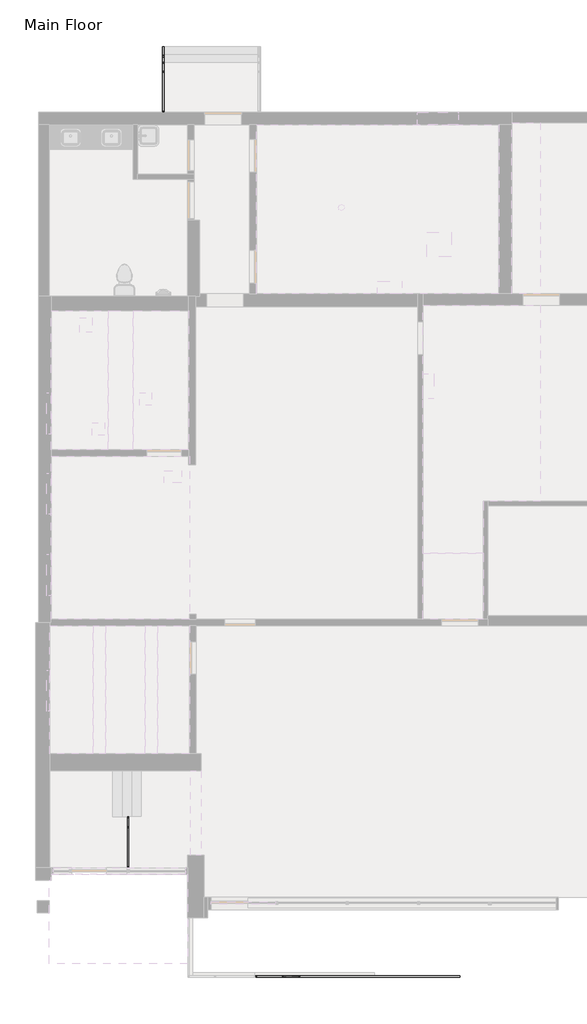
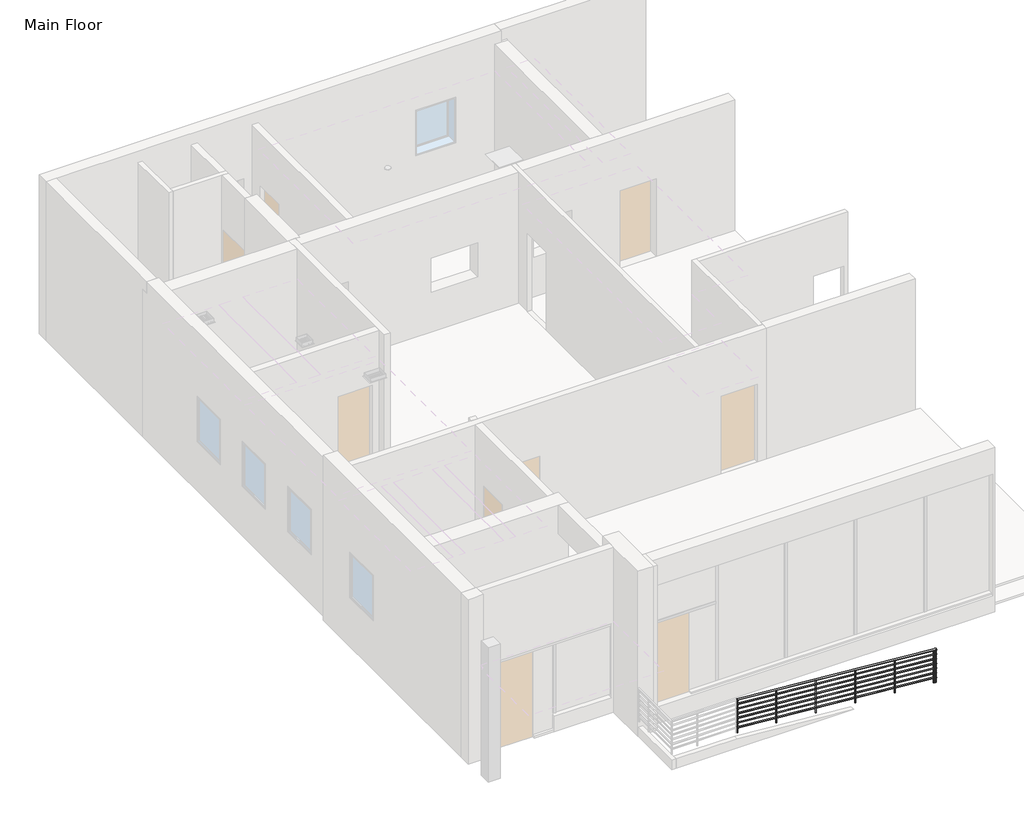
# One storey, part 3 of 4: 3 railings.
"""IFC4 building model written with IfcOpenShell, lengths in millimetres."""

from ifc_helpers import new_model, si_unit, point, frame, frame_2d, origin, place, context, project, spatial, circle_curve, ellipse_curve, trimmed, segment, composite_curve, outline, extrude, element, save
from ifc_brep_helpers import plane_surface, cylinder_surface, advanced_brep

model = new_model("IFC4")

# Units and contexts
model_context = context("Model", 3, world=origin())
ifc_project = project(units=[si_unit("LENGTHUNIT", "METRE", prefix="MILLI")], contexts=[model_context])

# Site, building, storey
site = spatial("IfcSite", under=ifc_project)
building = spatial("IfcBuilding", under=site)
storey = spatial("IfcBuildingStorey", under=building, Name="Main Floor", Elevation=0.0)

# Railings
placement = place(None, origin())
element("IfcRailing", 1, ObjectType="900mm Pipe", at=placement, inside=storey, context=model_context, shape_type="SweptSolid", body=[
    extrude(outline(composite_curve([segment(trimmed(circle_curve(frame_2d((1337.2, -3466.2370003)), 20.0), [point((1337.2, -3446.2370003))], [point((1337.2, -3486.2370003))], False, "CARTESIAN"), True, "CONTINUOUS"), segment(trimmed(circle_curve(frame_2d((1337.2, -3466.2370003)), 20.0), [point((1337.2, -3486.2370003))], [point((1337.2, -3446.2370003))], False, "CARTESIAN"), True, "CONTINUOUS")], self_intersect=False)), frame((0.0, -8476.0328667, 0.0), z_axis=(0.0, 1.0, 0.0), x_axis=(0.0, 0.0, 1.0)), (0.0, 0.0, 1.0), 1264.92),
    extrude(outline(composite_curve([segment(trimmed(circle_curve(frame_2d((1217.2, -3466.2370003)), 15.0), [point((1217.2, -3481.2370003))], [point((1217.2, -3451.2370003))], False, "CARTESIAN"), True, "CONTINUOUS"), segment(trimmed(circle_curve(frame_2d((1217.2, -3466.2370003)), 15.0), [point((1217.2, -3451.2370003))], [point((1217.2, -3481.2370003))], False, "CARTESIAN"), True, "CONTINUOUS")], self_intersect=False)), frame((0.0, -8476.0328667, 0.0), z_axis=(0.0, 1.0, 0.0), x_axis=(0.0, 0.0, 1.0)), (0.0, 0.0, 1.0), 1264.92),
    extrude(outline(composite_curve([segment(trimmed(circle_curve(frame_2d((1092.2, -3466.2370003)), 15.0), [point((1092.2, -3481.2370003))], [point((1092.2, -3451.2370003))], False, "CARTESIAN"), True, "CONTINUOUS"), segment(trimmed(circle_curve(frame_2d((1092.2, -3466.2370003)), 15.0), [point((1092.2, -3451.2370003))], [point((1092.2, -3481.2370003))], False, "CARTESIAN"), True, "CONTINUOUS")], self_intersect=False)), frame((0.0, -8476.0328667, 0.0), z_axis=(0.0, 1.0, 0.0), x_axis=(0.0, 0.0, 1.0)), (0.0, 0.0, 1.0), 1264.92),
    extrude(outline(composite_curve([segment(trimmed(circle_curve(frame_2d((967.2, -3466.2370003)), 15.0), [point((967.2, -3481.2370003))], [point((967.2, -3451.2370003))], False, "CARTESIAN"), True, "CONTINUOUS"), segment(trimmed(circle_curve(frame_2d((967.2, -3466.2370003)), 15.0), [point((967.2, -3451.2370003))], [point((967.2, -3481.2370003))], False, "CARTESIAN"), True, "CONTINUOUS")], self_intersect=False)), frame((0.0, -8476.0328667, 0.0), z_axis=(0.0, 1.0, 0.0), x_axis=(0.0, 0.0, 1.0)), (0.0, 0.0, 1.0), 1264.92),
    extrude(outline(composite_curve([segment(trimmed(circle_curve(frame_2d((842.2, -3466.2370003)), 15.0), [point((842.2, -3481.2370003))], [point((842.2, -3451.2370003))], False, "CARTESIAN"), True, "CONTINUOUS"), segment(trimmed(circle_curve(frame_2d((842.2, -3466.2370003)), 15.0), [point((842.2, -3451.2370003))], [point((842.2, -3481.2370003))], False, "CARTESIAN"), True, "CONTINUOUS")], self_intersect=False)), frame((0.0, -8476.0328667, 0.0), z_axis=(0.0, 1.0, 0.0), x_axis=(0.0, 0.0, 1.0)), (0.0, 0.0, 1.0), 1264.92),
    extrude(outline(composite_curve([segment(trimmed(circle_curve(frame_2d((717.2, -3466.2370003)), 15.0), [point((717.2, -3481.2370003))], [point((717.2, -3451.2370003))], False, "CARTESIAN"), True, "CONTINUOUS"), segment(trimmed(circle_curve(frame_2d((717.2, -3466.2370003)), 15.0), [point((717.2, -3451.2370003))], [point((717.2, -3481.2370003))], False, "CARTESIAN"), True, "CONTINUOUS")], self_intersect=False)), frame((0.0, -8476.0328667, 0.0), z_axis=(0.0, 1.0, 0.0), x_axis=(0.0, 0.0, 1.0)), (0.0, 0.0, 1.0), 1264.92),
    extrude(outline(composite_curve([segment(trimmed(circle_curve(frame_2d((592.2, -3466.2370003)), 15.0), [point((592.2, -3481.2370003))], [point((592.2, -3451.2370003))], False, "CARTESIAN"), True, "CONTINUOUS"), segment(trimmed(circle_curve(frame_2d((592.2, -3466.2370003)), 15.0), [point((592.2, -3451.2370003))], [point((592.2, -3481.2370003))], False, "CARTESIAN"), True, "CONTINUOUS")], self_intersect=False)), frame((0.0, -8476.0328667, 0.0), z_axis=(0.0, 1.0, 0.0), x_axis=(0.0, 0.0, 1.0)), (0.0, 0.0, 1.0), 1264.92),
    extrude(outline(composite_curve([segment(trimmed(circle_curve(frame_2d((-3466.2370003, -7476.0328667)), 12.5), [point((-3478.7370003, -7476.0328667))], [point((-3453.7370003, -7476.0328667))], False, "CARTESIAN"), True, "CONTINUOUS"), segment(trimmed(circle_curve(frame_2d((-3466.2370003, -7476.0328667)), 12.5), [point((-3453.7370003, -7476.0328667))], [point((-3478.7370003, -7476.0328667))], False, "CARTESIAN"), True, "CONTINUOUS")], self_intersect=False)), frame((0.0, 0.0, 457.2), z_axis=(0.0, 0.0, 1.0), x_axis=(1.0, 0.0, 0.0)), (0.0, 0.0, 1.0), 860.0),
    extrude(outline(composite_curve([segment(trimmed(circle_curve(frame_2d((-3466.2370003, -7223.6128667)), 12.5), [point((-3478.7370003, -7223.6128667))], [point((-3453.7370003, -7223.6128667))], False, "CARTESIAN"), True, "CONTINUOUS"), segment(trimmed(circle_curve(frame_2d((-3466.2370003, -7223.6128667)), 12.5), [point((-3453.7370003, -7223.6128667))], [point((-3478.7370003, -7223.6128667))], False, "CARTESIAN"), True, "CONTINUOUS")], self_intersect=False)), frame((0.0, 0.0, 457.2), z_axis=(0.0, 0.0, 1.0), x_axis=(1.0, 0.0, 0.0)), (0.0, 0.0, 1.0), 860.0),
    extrude(outline(composite_curve([segment(trimmed(circle_curve(frame_2d((-3466.2370003, -8463.5328667)), 12.5), [point((-3478.7370003, -8463.5328667))], [point((-3453.7370003, -8463.5328667))], False, "CARTESIAN"), True, "CONTINUOUS"), segment(trimmed(circle_curve(frame_2d((-3466.2370003, -8463.5328667)), 12.5), [point((-3453.7370003, -8463.5328667))], [point((-3478.7370003, -8463.5328667))], False, "CARTESIAN"), True, "CONTINUOUS")], self_intersect=False)), frame((0.0, 0.0, 457.2), z_axis=(0.0, 0.0, 1.0), x_axis=(1.0, 0.0, 0.0)), (0.0, 0.0, 1.0), 860.0),
])
element("IfcRailing", 2, ObjectType="900mm Pipe", at=placement, inside=storey, context=model_context, shape_type="AdvancedBrep", body=[
    advanced_brep(
    [(4738.2408122, -11142.0828667, 854.5306757), (4738.2408122, -11182.0828667, 854.5306757), (-316.6370003, -11142.0828667, 1275.7704934), (-316.6370003, -11182.0828667, 1275.7704934)],
    [
        (0, 1, ellipse_curve(frame((4738.2408122, -11162.0828667, 854.5306757), z_axis=(1.0, 0.0, 0.0), x_axis=(0.0, 0.0, -1.0)), 20.0693243, 20.0)),
        (1, 0, ellipse_curve(frame((4738.2408122, -11162.0828667, 854.5306757), z_axis=(1.0, 0.0, 0.0), x_axis=(0.0, 0.0, -1.0)), 20.0693243, 20.0)),
        (2, 3, ellipse_curve(frame((-316.6370003, -11162.0828667, 1275.7704934), z_axis=(-1.0, 0.0, 0.0), x_axis=(0.0, 0.0, -1.0)), 20.0693243, 20.0)),
        (3, 2, ellipse_curve(frame((-316.6370003, -11162.0828667, 1275.7704934), z_axis=(-1.0, 0.0, 0.0), x_axis=(0.0, 0.0, -1.0)), 20.0693243, 20.0)),
        (0, 2),
        (3, 1),
    ],
    [
        plane_surface(frame((4738.2408122, -11162.0828667, 874.6), z_axis=(1.0, 0.0, 0.0), x_axis=(0.0, -1.0, 0.0))),
        plane_surface(frame((-316.6370003, -11162.0828667, 1295.8398177), z_axis=(-1.0, 0.0, 0.0), x_axis=(0.0, -1.0, 0.0))),
        cylinder_surface(frame((4736.5799026, -11162.0828667, 854.6690848), z_axis=(0.9965457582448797, 0.0, -0.08304547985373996), x_axis=(0.0, -1.0, 0.0)), 20.0),
    ],
    [
        (0, [[1, 2]]),
        (1, [[3, 4]]),
        (2, [[-1, 5, -4, 6]]),
        (2, [[-2, -6, -3, -5]]),
    ],
),
    advanced_brep(
    [(-316.6370003, -11147.0828667, 1155.7878245), (-316.6370003, -11177.0828667, 1155.7878245), (4738.2408122, -11147.0828667, 734.5480068), (4738.2408122, -11177.0828667, 734.5480068)],
    [
        (0, 1, ellipse_curve(frame((-316.6370003, -11162.0828667, 1155.7878245), z_axis=(-1.0, 0.0, 0.0), x_axis=(0.0, 0.0, 1.0)), 15.0519932, 15.0)),
        (1, 0, ellipse_curve(frame((-316.6370003, -11162.0828667, 1155.7878245), z_axis=(-1.0, 0.0, 0.0), x_axis=(0.0, 0.0, 1.0)), 15.0519932, 15.0)),
        (2, 3, ellipse_curve(frame((4738.2408122, -11162.0828667, 734.5480068), z_axis=(1.0, 0.0, 0.0), x_axis=(0.0, 0.0, 1.0)), 15.0519932, 15.0)),
        (3, 2, ellipse_curve(frame((4738.2408122, -11162.0828667, 734.5480068), z_axis=(1.0, 0.0, 0.0), x_axis=(0.0, 0.0, 1.0)), 15.0519932, 15.0)),
        (0, 2),
        (3, 1),
    ],
    [
        plane_surface(frame((-316.6370003, -11162.0828667, 1170.8398177), z_axis=(-1.0, 0.0, 0.0), x_axis=(0.0, 1.0, 0.0))),
        plane_surface(frame((4738.2408122, -11162.0828667, 749.6), z_axis=(1.0, 0.0, 0.0), x_axis=(0.0, 1.0, 0.0))),
        cylinder_surface(frame((-317.8826825, -11162.0828667, 1155.8916313), z_axis=(-0.9965457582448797, 0.0, 0.08304547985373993), x_axis=(0.0, -1.0, 0.0)), 15.0),
    ],
    [
        (0, [[1, 2]]),
        (1, [[3, 4]]),
        (2, [[-1, 5, -4, 6]]),
        (2, [[-2, -6, -3, -5]]),
    ],
),
    advanced_brep(
    [(-316.6370003, -11147.0828667, 1030.7878245), (-316.6370003, -11177.0828667, 1030.7878245), (4738.2408122, -11147.0828667, 609.5480068), (4738.2408122, -11177.0828667, 609.5480068)],
    [
        (0, 1, ellipse_curve(frame((-316.6370003, -11162.0828667, 1030.7878245), z_axis=(-1.0, 0.0, 0.0), x_axis=(0.0, 0.0, 1.0)), 15.0519932, 15.0)),
        (1, 0, ellipse_curve(frame((-316.6370003, -11162.0828667, 1030.7878245), z_axis=(-1.0, 0.0, 0.0), x_axis=(0.0, 0.0, 1.0)), 15.0519932, 15.0)),
        (2, 3, ellipse_curve(frame((4738.2408122, -11162.0828667, 609.5480068), z_axis=(1.0, 0.0, 0.0), x_axis=(0.0, 0.0, 1.0)), 15.0519932, 15.0)),
        (3, 2, ellipse_curve(frame((4738.2408122, -11162.0828667, 609.5480068), z_axis=(1.0, 0.0, 0.0), x_axis=(0.0, 0.0, 1.0)), 15.0519932, 15.0)),
        (0, 2),
        (3, 1),
    ],
    [
        plane_surface(frame((-316.6370003, -11162.0828667, 1045.8398177), z_axis=(-1.0, 0.0, 0.0), x_axis=(0.0, 1.0, 0.0))),
        plane_surface(frame((4738.2408122, -11162.0828667, 624.6), z_axis=(1.0, 0.0, 0.0), x_axis=(0.0, 1.0, 0.0))),
        cylinder_surface(frame((-317.8826825, -11162.0828667, 1030.8916313), z_axis=(-0.9965457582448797, 0.0, 0.08304547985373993), x_axis=(0.0, -1.0, 0.0)), 15.0),
    ],
    [
        (0, [[1, 2]]),
        (1, [[3, 4]]),
        (2, [[-1, 5, -4, 6]]),
        (2, [[-2, -6, -3, -5]]),
    ],
),
    advanced_brep(
    [(-316.6370003, -11147.0828667, 905.7878245), (-316.6370003, -11177.0828667, 905.7878245), (4738.2408122, -11147.0828667, 484.5480068), (4738.2408122, -11177.0828667, 484.5480068)],
    [
        (0, 1, ellipse_curve(frame((-316.6370003, -11162.0828667, 905.7878245), z_axis=(-1.0, 0.0, 0.0), x_axis=(0.0, 0.0, 1.0)), 15.0519932, 15.0)),
        (1, 0, ellipse_curve(frame((-316.6370003, -11162.0828667, 905.7878245), z_axis=(-1.0, 0.0, 0.0), x_axis=(0.0, 0.0, 1.0)), 15.0519932, 15.0)),
        (2, 3, ellipse_curve(frame((4738.2408122, -11162.0828667, 484.5480068), z_axis=(1.0, 0.0, 0.0), x_axis=(0.0, 0.0, 1.0)), 15.0519932, 15.0)),
        (3, 2, ellipse_curve(frame((4738.2408122, -11162.0828667, 484.5480068), z_axis=(1.0, 0.0, 0.0), x_axis=(0.0, 0.0, 1.0)), 15.0519932, 15.0)),
        (0, 2),
        (3, 1),
    ],
    [
        plane_surface(frame((-316.6370003, -11162.0828667, 920.8398177), z_axis=(-1.0, 0.0, 0.0), x_axis=(0.0, 1.0, 0.0))),
        plane_surface(frame((4738.2408122, -11162.0828667, 499.6), z_axis=(1.0, 0.0, 0.0), x_axis=(0.0, 1.0, 0.0))),
        cylinder_surface(frame((-317.8826825, -11162.0828667, 905.8916313), z_axis=(-0.9965457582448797, 0.0, 0.08304547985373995), x_axis=(0.0, -1.0, 0.0)), 15.0),
    ],
    [
        (0, [[1, 2]]),
        (1, [[3, 4]]),
        (2, [[-1, 5, -4, 6]]),
        (2, [[-2, -6, -3, -5]]),
    ],
),
    advanced_brep(
    [(-316.6370003, -11147.0828667, 780.7878245), (-316.6370003, -11177.0828667, 780.7878245), (4738.2408122, -11147.0828667, 359.5480068), (4738.2408122, -11177.0828667, 359.5480068)],
    [
        (0, 1, ellipse_curve(frame((-316.6370003, -11162.0828667, 780.7878245), z_axis=(-1.0, 0.0, 0.0), x_axis=(0.0, 0.0, 1.0)), 15.0519932, 15.0)),
        (1, 0, ellipse_curve(frame((-316.6370003, -11162.0828667, 780.7878245), z_axis=(-1.0, 0.0, 0.0), x_axis=(0.0, 0.0, 1.0)), 15.0519932, 15.0)),
        (2, 3, ellipse_curve(frame((4738.2408122, -11162.0828667, 359.5480068), z_axis=(1.0, 0.0, 0.0), x_axis=(0.0, 0.0, 1.0)), 15.0519932, 15.0)),
        (3, 2, ellipse_curve(frame((4738.2408122, -11162.0828667, 359.5480068), z_axis=(1.0, 0.0, 0.0), x_axis=(0.0, 0.0, 1.0)), 15.0519932, 15.0)),
        (0, 2),
        (3, 1),
    ],
    [
        plane_surface(frame((-316.6370003, -11162.0828667, 795.8398177), z_axis=(-1.0, 0.0, 0.0), x_axis=(0.0, 1.0, 0.0))),
        plane_surface(frame((4738.2408122, -11162.0828667, 374.6), z_axis=(1.0, 0.0, 0.0), x_axis=(0.0, 1.0, 0.0))),
        cylinder_surface(frame((-317.8826825, -11162.0828667, 780.8916313), z_axis=(-0.9965457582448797, 0.0, 0.08304547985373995), x_axis=(0.0, -1.0, 0.0)), 15.0),
    ],
    [
        (0, [[1, 2]]),
        (1, [[3, 4]]),
        (2, [[-1, 5, -4, 6]]),
        (2, [[-2, -6, -3, -5]]),
    ],
),
    advanced_brep(
    [(-316.6370003, -11147.0828667, 655.7878245), (-316.6370003, -11177.0828667, 655.7878245), (4738.2408122, -11147.0828667, 234.5480068), (4738.2408122, -11177.0828667, 234.5480068)],
    [
        (0, 1, ellipse_curve(frame((-316.6370003, -11162.0828667, 655.7878245), z_axis=(-1.0, 0.0, 0.0), x_axis=(0.0, 0.0, 1.0)), 15.0519932, 15.0)),
        (1, 0, ellipse_curve(frame((-316.6370003, -11162.0828667, 655.7878245), z_axis=(-1.0, 0.0, 0.0), x_axis=(0.0, 0.0, 1.0)), 15.0519932, 15.0)),
        (2, 3, ellipse_curve(frame((4738.2408122, -11162.0828667, 234.5480068), z_axis=(1.0, 0.0, 0.0), x_axis=(0.0, 0.0, 1.0)), 15.0519932, 15.0)),
        (3, 2, ellipse_curve(frame((4738.2408122, -11162.0828667, 234.5480068), z_axis=(1.0, 0.0, 0.0), x_axis=(0.0, 0.0, 1.0)), 15.0519932, 15.0)),
        (0, 2),
        (3, 1),
    ],
    [
        plane_surface(frame((-316.6370003, -11162.0828667, 670.8398177), z_axis=(-1.0, 0.0, 0.0), x_axis=(0.0, 1.0, 0.0))),
        plane_surface(frame((4738.2408122, -11162.0828667, 249.6), z_axis=(1.0, 0.0, 0.0), x_axis=(0.0, 1.0, 0.0))),
        cylinder_surface(frame((-317.8826825, -11162.0828667, 655.8916313), z_axis=(-0.9965457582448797, 0.0, 0.08304547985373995), x_axis=(0.0, -1.0, 0.0)), 15.0),
    ],
    [
        (0, [[1, 2]]),
        (1, [[3, 4]]),
        (2, [[-1, 5, -4, 6]]),
        (2, [[-2, -6, -3, -5]]),
    ],
),
    advanced_brep(
    [(-316.6370003, -11147.0828667, 530.7878245), (-316.6370003, -11177.0828667, 530.7878245), (4738.2408122, -11147.0828667, 109.5480068), (4738.2408122, -11177.0828667, 109.5480068)],
    [
        (0, 1, ellipse_curve(frame((-316.6370003, -11162.0828667, 530.7878245), z_axis=(-1.0, 0.0, 0.0), x_axis=(0.0, 0.0, 1.0)), 15.0519932, 15.0)),
        (1, 0, ellipse_curve(frame((-316.6370003, -11162.0828667, 530.7878245), z_axis=(-1.0, 0.0, 0.0), x_axis=(0.0, 0.0, 1.0)), 15.0519932, 15.0)),
        (2, 3, ellipse_curve(frame((4738.2408122, -11162.0828667, 109.5480068), z_axis=(1.0, 0.0, 0.0), x_axis=(0.0, 0.0, 1.0)), 15.0519932, 15.0)),
        (3, 2, ellipse_curve(frame((4738.2408122, -11162.0828667, 109.5480068), z_axis=(1.0, 0.0, 0.0), x_axis=(0.0, 0.0, 1.0)), 15.0519932, 15.0)),
        (0, 2),
        (3, 1),
    ],
    [
        plane_surface(frame((-316.6370003, -11162.0828667, 545.8398177), z_axis=(-1.0, 0.0, 0.0), x_axis=(0.0, 1.0, 0.0))),
        plane_surface(frame((4738.2408122, -11162.0828667, 124.6), z_axis=(1.0, 0.0, 0.0), x_axis=(0.0, 1.0, 0.0))),
        cylinder_surface(frame((-317.8826825, -11162.0828667, 530.8916313), z_axis=(-0.9965457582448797, 0.0, 0.08304547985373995), x_axis=(0.0, -1.0, 0.0)), 15.0),
    ],
    [
        (0, [[1, 2]]),
        (1, [[3, 4]]),
        (2, [[-1, 5, -4, 6]]),
        (2, [[-2, -6, -3, -5]]),
    ],
),
    advanced_brep(
    [(4683.3629997, -11174.5828667, 839.0345024), (4683.3629997, -11174.5828667, -20.826849), (4683.3629997, -11149.5828667, -20.826849), (4683.3629997, -11149.5828667, 839.0345024)],
    [
        (0, 1),
        (1, 2, ellipse_curve(frame((4683.3629997, -11162.0828667, -20.826849), z_axis=(0.08304547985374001, 0.0, 0.9965457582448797), x_axis=(-0.9965457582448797, 0.0, 0.08304547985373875)), 12.5433277, 12.5)),
        (2, 3),
        (3, 0, ellipse_curve(frame((4683.3629997, -11162.0828667, 839.0345024), z_axis=(-0.08304547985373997, 0.0, -0.9965457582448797), x_axis=(-0.9965457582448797, 0.0, 0.0830454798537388)), 12.5433277, 12.5)),
        (0, 3, ellipse_curve(frame((4683.3629997, -11162.0828667, 839.0345024), z_axis=(-0.08304547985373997, 0.0, -0.9965457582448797), x_axis=(-0.9965457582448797, 0.0, 0.0830454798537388)), 12.5433277, 12.5)),
        (2, 1, ellipse_curve(frame((4683.3629997, -11162.0828667, -20.826849), z_axis=(0.08304547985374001, 0.0, 0.9965457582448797), x_axis=(-0.9965457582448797, 0.0, 0.08304547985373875)), 12.5433277, 12.5)),
    ],
    [
        cylinder_surface(frame((4683.3629997, -11162.0828667, -120.826849), z_axis=(0.0, 0.0, 1.0), x_axis=(0.0, 1.0, 0.0)), 12.5),
        plane_surface(frame((4708.3629997, -11137.0828667, 836.9511691), z_axis=(0.08304547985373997, 0.0, 0.9965457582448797), x_axis=(0.0, -1.0, 0.0))),
        plane_surface(frame((4658.3629997, -11137.0828667, -18.7435156), z_axis=(-0.08304547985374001, 0.0, -0.9965457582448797), x_axis=(0.0, -1.0, 0.0))),
    ],
    [
        (0, [[1, 2, 3, 4]]),
        (0, [[-1, 5, -3, 6]]),
        (1, [[-4, -5]]),
        (2, [[-2, -6]]),
    ],
),
    advanced_brep(
    [(3683.3629997, -11174.5828667, 922.3678358), (3683.3629997, -11174.5828667, 62.5064844), (3683.3629997, -11149.5828667, 62.5064844), (3683.3629997, -11149.5828667, 922.3678358)],
    [
        (0, 1),
        (1, 2, ellipse_curve(frame((3683.3629997, -11162.0828667, 62.5064844), z_axis=(0.08304547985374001, 0.0, 0.9965457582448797), x_axis=(-0.9965457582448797, 0.0, 0.08304547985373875)), 12.5433277, 12.5)),
        (2, 3),
        (3, 0, ellipse_curve(frame((3683.3629997, -11162.0828667, 922.3678358), z_axis=(-0.08304547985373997, 0.0, -0.9965457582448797), x_axis=(-0.9965457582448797, 0.0, 0.0830454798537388)), 12.5433277, 12.5)),
        (0, 3, ellipse_curve(frame((3683.3629997, -11162.0828667, 922.3678358), z_axis=(-0.08304547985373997, 0.0, -0.9965457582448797), x_axis=(-0.9965457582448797, 0.0, 0.0830454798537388)), 12.5433277, 12.5)),
        (2, 1, ellipse_curve(frame((3683.3629997, -11162.0828667, 62.5064844), z_axis=(0.08304547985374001, 0.0, 0.9965457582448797), x_axis=(-0.9965457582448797, 0.0, 0.08304547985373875)), 12.5433277, 12.5)),
    ],
    [
        cylinder_surface(frame((3683.3629997, -11162.0828667, -37.4935156), z_axis=(0.0, 0.0, 1.0), x_axis=(0.0, 1.0, 0.0)), 12.5),
        plane_surface(frame((3708.3629997, -11137.0828667, 920.2845024), z_axis=(0.08304547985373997, 0.0, 0.9965457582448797), x_axis=(0.0, -1.0, 0.0))),
        plane_surface(frame((3658.3629997, -11137.0828667, 64.5898177), z_axis=(-0.08304547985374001, 0.0, -0.9965457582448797), x_axis=(0.0, -1.0, 0.0))),
    ],
    [
        (0, [[1, 2, 3, 4]]),
        (0, [[-1, 5, -3, 6]]),
        (1, [[-4, -5]]),
        (2, [[-2, -6]]),
    ],
),
    advanced_brep(
    [(2683.3629997, -11174.5828667, 1005.7011691), (2683.3629997, -11174.5828667, 145.8398177), (2683.3629997, -11149.5828667, 145.8398177), (2683.3629997, -11149.5828667, 1005.7011691)],
    [
        (0, 1),
        (1, 2, ellipse_curve(frame((2683.3629997, -11162.0828667, 145.8398177), z_axis=(0.08304547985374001, 0.0, 0.9965457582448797), x_axis=(-0.9965457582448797, 0.0, 0.08304547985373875)), 12.5433277, 12.5)),
        (2, 3),
        (3, 0, ellipse_curve(frame((2683.3629997, -11162.0828667, 1005.7011691), z_axis=(-0.08304547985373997, 0.0, -0.9965457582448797), x_axis=(-0.9965457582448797, 0.0, 0.0830454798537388)), 12.5433277, 12.5)),
        (0, 3, ellipse_curve(frame((2683.3629997, -11162.0828667, 1005.7011691), z_axis=(-0.08304547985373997, 0.0, -0.9965457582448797), x_axis=(-0.9965457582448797, 0.0, 0.0830454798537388)), 12.5433277, 12.5)),
        (2, 1, ellipse_curve(frame((2683.3629997, -11162.0828667, 145.8398177), z_axis=(0.08304547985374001, 0.0, 0.9965457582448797), x_axis=(-0.9965457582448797, 0.0, 0.08304547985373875)), 12.5433277, 12.5)),
    ],
    [
        cylinder_surface(frame((2683.3629997, -11162.0828667, 45.8398177), z_axis=(0.0, 0.0, 1.0), x_axis=(0.0, 1.0, 0.0)), 12.5),
        plane_surface(frame((2708.3629997, -11137.0828667, 1003.6178358), z_axis=(0.08304547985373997, 0.0, 0.9965457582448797), x_axis=(0.0, -1.0, 0.0))),
        plane_surface(frame((2658.3629997, -11137.0828667, 147.923151), z_axis=(-0.08304547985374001, 0.0, -0.9965457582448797), x_axis=(0.0, -1.0, 0.0))),
    ],
    [
        (0, [[1, 2, 3, 4]]),
        (0, [[-1, 5, -3, 6]]),
        (1, [[-4, -5]]),
        (2, [[-2, -6]]),
    ],
),
    advanced_brep(
    [(1683.3629997, -11174.5828667, 1089.0345024), (1683.3629997, -11174.5828667, 229.173151), (1683.3629997, -11149.5828667, 229.173151), (1683.3629997, -11149.5828667, 1089.0345024)],
    [
        (0, 1),
        (1, 2, ellipse_curve(frame((1683.3629997, -11162.0828667, 229.173151), z_axis=(0.08304547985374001, 0.0, 0.9965457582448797), x_axis=(-0.9965457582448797, 0.0, 0.08304547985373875)), 12.5433277, 12.5)),
        (2, 3),
        (3, 0, ellipse_curve(frame((1683.3629997, -11162.0828667, 1089.0345024), z_axis=(-0.08304547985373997, 0.0, -0.9965457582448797), x_axis=(-0.9965457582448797, 0.0, 0.0830454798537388)), 12.5433277, 12.5)),
        (0, 3, ellipse_curve(frame((1683.3629997, -11162.0828667, 1089.0345024), z_axis=(-0.08304547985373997, 0.0, -0.9965457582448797), x_axis=(-0.9965457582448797, 0.0, 0.0830454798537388)), 12.5433277, 12.5)),
        (2, 1, ellipse_curve(frame((1683.3629997, -11162.0828667, 229.173151), z_axis=(0.08304547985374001, 0.0, 0.9965457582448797), x_axis=(-0.9965457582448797, 0.0, 0.08304547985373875)), 12.5433277, 12.5)),
    ],
    [
        cylinder_surface(frame((1683.3629997, -11162.0828667, 129.173151), z_axis=(0.0, 0.0, 1.0), x_axis=(0.0, 1.0, 0.0)), 12.5),
        plane_surface(frame((1708.3629997, -11137.0828667, 1086.9511691), z_axis=(0.08304547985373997, 0.0, 0.9965457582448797), x_axis=(0.0, -1.0, 0.0))),
        plane_surface(frame((1658.3629997, -11137.0828667, 231.2564844), z_axis=(-0.08304547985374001, 0.0, -0.9965457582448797), x_axis=(0.0, -1.0, 0.0))),
    ],
    [
        (0, [[1, 2, 3, 4]]),
        (0, [[-1, 5, -3, 6]]),
        (1, [[-4, -5]]),
        (2, [[-2, -6]]),
    ],
),
    advanced_brep(
    [(683.3629997, -11174.5828667, 1172.3678358), (683.3629997, -11174.5828667, 312.5064844), (683.3629997, -11149.5828667, 312.5064844), (683.3629997, -11149.5828667, 1172.3678358)],
    [
        (0, 1),
        (1, 2, ellipse_curve(frame((683.3629997, -11162.0828667, 312.5064844), z_axis=(0.08304547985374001, 0.0, 0.9965457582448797), x_axis=(-0.9965457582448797, 0.0, 0.08304547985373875)), 12.5433277, 12.5)),
        (2, 3),
        (3, 0, ellipse_curve(frame((683.3629997, -11162.0828667, 1172.3678358), z_axis=(-0.08304547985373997, 0.0, -0.9965457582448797), x_axis=(-0.9965457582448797, 0.0, 0.0830454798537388)), 12.5433277, 12.5)),
        (0, 3, ellipse_curve(frame((683.3629997, -11162.0828667, 1172.3678358), z_axis=(-0.08304547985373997, 0.0, -0.9965457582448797), x_axis=(-0.9965457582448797, 0.0, 0.0830454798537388)), 12.5433277, 12.5)),
        (2, 1, ellipse_curve(frame((683.3629997, -11162.0828667, 312.5064844), z_axis=(0.08304547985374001, 0.0, 0.9965457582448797), x_axis=(-0.9965457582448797, 0.0, 0.08304547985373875)), 12.5433277, 12.5)),
    ],
    [
        cylinder_surface(frame((683.3629997, -11162.0828667, 212.5064844), z_axis=(0.0, 0.0, 1.0), x_axis=(0.0, 1.0, 0.0)), 12.5),
        plane_surface(frame((708.3629997, -11137.0828667, 1170.2845024), z_axis=(0.08304547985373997, 0.0, 0.9965457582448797), x_axis=(0.0, -1.0, 0.0))),
        plane_surface(frame((658.3629997, -11137.0828667, 314.5898177), z_axis=(-0.08304547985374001, 0.0, -0.9965457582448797), x_axis=(0.0, -1.0, 0.0))),
    ],
    [
        (0, [[1, 2, 3, 4]]),
        (0, [[-1, 5, -3, 6]]),
        (1, [[-4, -5]]),
        (2, [[-2, -6]]),
    ],
),
    advanced_brep(
    [(4725.7408122, -11174.5828667, 835.5030181), (4725.7408122, -11174.5828667, -24.3583333), (4725.7408122, -11149.5828667, -24.3583333), (4725.7408122, -11149.5828667, 835.5030181)],
    [
        (0, 1),
        (1, 2, ellipse_curve(frame((4725.7408122, -11162.0828667, -24.3583333), z_axis=(0.08304547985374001, 0.0, 0.9965457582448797), x_axis=(-0.9965457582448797, 0.0, 0.08304547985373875)), 12.5433277, 12.5)),
        (2, 3),
        (3, 0, ellipse_curve(frame((4725.7408122, -11162.0828667, 835.5030181), z_axis=(-0.08304547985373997, 0.0, -0.9965457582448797), x_axis=(-0.9965457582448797, 0.0, 0.0830454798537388)), 12.5433277, 12.5)),
        (0, 3, ellipse_curve(frame((4725.7408122, -11162.0828667, 835.5030181), z_axis=(-0.08304547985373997, 0.0, -0.9965457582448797), x_axis=(-0.9965457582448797, 0.0, 0.0830454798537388)), 12.5433277, 12.5)),
        (2, 1, ellipse_curve(frame((4725.7408122, -11162.0828667, -24.3583333), z_axis=(0.08304547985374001, 0.0, 0.9965457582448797), x_axis=(-0.9965457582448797, 0.0, 0.08304547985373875)), 12.5433277, 12.5)),
    ],
    [
        cylinder_surface(frame((4725.7408122, -11162.0828667, -124.3583333), z_axis=(0.0, 0.0, 1.0), x_axis=(0.0, 1.0, 0.0)), 12.5),
        plane_surface(frame((4750.7408122, -11137.0828667, 833.4196847), z_axis=(0.08304547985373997, 0.0, 0.9965457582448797), x_axis=(0.0, -1.0, 0.0))),
        plane_surface(frame((4700.7408122, -11137.0828667, -22.275), z_axis=(-0.08304547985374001, 0.0, -0.9965457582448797), x_axis=(0.0, -1.0, 0.0))),
    ],
    [
        (0, [[1, 2, 3, 4]]),
        (0, [[-1, 5, -3, 6]]),
        (1, [[-4, -5]]),
        (2, [[-2, -6]]),
    ],
),
    advanced_brep(
    [(-304.1370003, -11174.5828667, 1254.6595024), (-304.1370003, -11174.5828667, 394.798151), (-304.1370003, -11149.5828667, 394.798151), (-304.1370003, -11149.5828667, 1254.6595024)],
    [
        (0, 1),
        (1, 2, ellipse_curve(frame((-304.1370003, -11162.0828667, 394.798151), z_axis=(0.08304547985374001, 0.0, 0.9965457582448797), x_axis=(-0.9965457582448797, 0.0, 0.08304547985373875)), 12.5433277, 12.5)),
        (2, 3),
        (3, 0, ellipse_curve(frame((-304.1370003, -11162.0828667, 1254.6595024), z_axis=(-0.08304547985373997, 0.0, -0.9965457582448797), x_axis=(-0.9965457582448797, 0.0, 0.0830454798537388)), 12.5433277, 12.5)),
        (0, 3, ellipse_curve(frame((-304.1370003, -11162.0828667, 1254.6595024), z_axis=(-0.08304547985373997, 0.0, -0.9965457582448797), x_axis=(-0.9965457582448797, 0.0, 0.0830454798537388)), 12.5433277, 12.5)),
        (2, 1, ellipse_curve(frame((-304.1370003, -11162.0828667, 394.798151), z_axis=(0.08304547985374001, 0.0, 0.9965457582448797), x_axis=(-0.9965457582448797, 0.0, 0.08304547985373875)), 12.5433277, 12.5)),
    ],
    [
        cylinder_surface(frame((-304.1370003, -11162.0828667, 294.798151), z_axis=(0.0, 0.0, 1.0), x_axis=(0.0, 1.0, 0.0)), 12.5),
        plane_surface(frame((-279.1370003, -11137.0828667, 1252.5761691), z_axis=(0.08304547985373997, 0.0, 0.9965457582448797), x_axis=(0.0, -1.0, 0.0))),
        plane_surface(frame((-329.1370003, -11137.0828667, 396.8814844), z_axis=(-0.08304547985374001, 0.0, -0.9965457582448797), x_axis=(0.0, -1.0, 0.0))),
    ],
    [
        (0, [[1, 2, 3, 4]]),
        (0, [[-1, 5, -3, 6]]),
        (1, [[-4, -5]]),
        (2, [[-2, -6]]),
    ],
),
])
element("IfcRailing", 3, ObjectType="900mm Pipe", at=placement, inside=storey, context=model_context, shape_type="SolidModel", body=[
    advanced_brep(
    [(-2613.4120003, 11831.2671333, 1027.4), (-2573.4120003, 11831.2671333, 1027.4), (-2613.4120003, 11418.2004666, 1337.2), (-2573.4120003, 11418.2004666, 1337.2), (-2613.4120003, 10205.6671333, 1337.2), (-2573.4120003, 10205.6671333, 1337.2)],
    [
        (0, 1, ellipse_curve(frame((-2593.4120003, 11831.2671333, 1027.4), z_axis=(0.0, 1.0, 0.0), x_axis=(0.0, 0.0, -1.0)), 25.0, 20.0)),
        (1, 0, ellipse_curve(frame((-2593.4120003, 11831.2671333, 1027.4), z_axis=(0.0, 1.0, 0.0), x_axis=(0.0, 0.0, -1.0)), 25.0, 20.0)),
        (0, 2),
        (2, 3, ellipse_curve(frame((-2593.4120003, 11418.2004666, 1337.2), z_axis=(0.0, 0.9486832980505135, -0.3162277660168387), x_axis=(0.0, -0.31622776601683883, -0.9486832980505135)), 21.0818511, 20.0)),
        (3, 1),
        (3, 2, ellipse_curve(frame((-2593.4120003, 11418.2004666, 1337.2), z_axis=(0.0, 0.9486832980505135, -0.3162277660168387), x_axis=(0.0, -0.31622776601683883, -0.9486832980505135)), 21.0818511, 20.0)),
        (4, 5, circle_curve(frame((-2593.4120003, 10205.6671333, 1337.2), z_axis=(0.0, -1.0, 0.0), x_axis=(1.0, 0.0, 0.0)), 20.0)),
        (5, 4, circle_curve(frame((-2593.4120003, 10205.6671333, 1337.2), z_axis=(0.0, -1.0, 0.0), x_axis=(1.0, 0.0, 0.0)), 20.0)),
        (2, 4),
        (5, 3),
    ],
    [
        plane_surface(frame((-2593.4120003, 11831.2671333, 1052.4), z_axis=(0.0, 1.0, 0.0), x_axis=(0.0, 0.0, -1.0))),
        cylinder_surface(frame((-2593.4120003, 11819.2671333, 1036.4), z_axis=(0.0, 0.7999999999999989, -0.6000000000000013), x_axis=(1.0, 0.0, 0.0)), 20.0),
        plane_surface(frame((-2593.4120003, 10205.6671333, 1357.2), z_axis=(0.0, -1.0, 0.0), x_axis=(0.0, 0.0, -1.0))),
        cylinder_surface(frame((-2593.4120003, 11424.8671333, 1337.2), z_axis=(0.0, 1.0, 0.0), x_axis=(1.0, 0.0, 0.0)), 20.0),
    ],
    [
        (0, [[1, 2]]),
        (1, [[-1, 3, 4, 5]]),
        (1, [[-2, -5, 6, -3]]),
        (2, [[7, 8]]),
        (3, [[-4, 9, -8, 10]]),
        (3, [[-6, -10, -7, -9]]),
    ],
),
    advanced_brep(
    [(-2608.4120003, 10205.6671333, 1217.2), (-2578.4120003, 10205.6671333, 1217.2), (-2608.4120003, 11419.8671333, 1217.2), (-2578.4120003, 11419.8671333, 1217.2), (-2608.4120003, 11831.2671333, 908.65), (-2578.4120003, 11831.2671333, 908.65)],
    [
        (0, 1, circle_curve(frame((-2593.4120003, 10205.6671333, 1217.2), z_axis=(0.0, -1.0, 0.0), x_axis=(1.0, 0.0, 0.0)), 15.0)),
        (1, 0, circle_curve(frame((-2593.4120003, 10205.6671333, 1217.2), z_axis=(0.0, -1.0, 0.0), x_axis=(1.0, 0.0, 0.0)), 15.0)),
        (0, 2),
        (2, 3, ellipse_curve(frame((-2593.4120003, 11419.8671333, 1217.2), z_axis=(0.0, -0.9486832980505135, 0.3162277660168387), x_axis=(0.0, -0.31622776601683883, -0.9486832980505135)), 15.8113883, 15.0)),
        (3, 1),
        (3, 2, ellipse_curve(frame((-2593.4120003, 11419.8671333, 1217.2), z_axis=(0.0, -0.9486832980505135, 0.3162277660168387), x_axis=(0.0, -0.31622776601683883, -0.9486832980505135)), 15.8113883, 15.0)),
        (4, 5, ellipse_curve(frame((-2593.4120003, 11831.2671333, 908.65), z_axis=(0.0, 1.0, 0.0), x_axis=(0.0, 0.0, 1.0)), 18.75, 15.0)),
        (5, 4, ellipse_curve(frame((-2593.4120003, 11831.2671333, 908.65), z_axis=(0.0, 1.0, 0.0), x_axis=(0.0, 0.0, 1.0)), 18.75, 15.0)),
        (2, 4),
        (5, 3),
    ],
    [
        plane_surface(frame((-2593.4120003, 10205.6671333, 1232.2), z_axis=(0.0, -1.0, 0.0), x_axis=(0.0, 0.0, 1.0))),
        cylinder_surface(frame((-2593.4120003, 10205.6671333, 1217.2), z_axis=(0.0, -1.0, 0.0), x_axis=(1.0, 0.0, 0.0)), 15.0),
        plane_surface(frame((-2593.4120003, 11831.2671333, 927.4), z_axis=(0.0, 1.0, 0.0), x_axis=(0.0, 0.0, 1.0))),
        cylinder_surface(frame((-2593.4120003, 11415.8671333, 1220.2), z_axis=(0.0, -0.7999999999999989, 0.6000000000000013), x_axis=(1.0, 0.0, 0.0)), 15.0),
    ],
    [
        (0, [[1, 2]]),
        (1, [[-1, 3, 4, 5]]),
        (1, [[-2, -5, 6, -3]]),
        (2, [[7, 8]]),
        (3, [[-4, 9, -8, 10]]),
        (3, [[-6, -10, -7, -9]]),
    ],
),
    advanced_brep(
    [(-2608.4120003, 10205.6671333, 1092.2), (-2578.4120003, 10205.6671333, 1092.2), (-2608.4120003, 11419.8671333, 1092.2), (-2578.4120003, 11419.8671333, 1092.2), (-2608.4120003, 11831.2671333, 783.65), (-2578.4120003, 11831.2671333, 783.65)],
    [
        (0, 1, circle_curve(frame((-2593.4120003, 10205.6671333, 1092.2), z_axis=(0.0, -1.0, 0.0), x_axis=(1.0, 0.0, 0.0)), 15.0)),
        (1, 0, circle_curve(frame((-2593.4120003, 10205.6671333, 1092.2), z_axis=(0.0, -1.0, 0.0), x_axis=(1.0, 0.0, 0.0)), 15.0)),
        (0, 2),
        (2, 3, ellipse_curve(frame((-2593.4120003, 11419.8671333, 1092.2), z_axis=(0.0, -0.9486832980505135, 0.3162277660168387), x_axis=(0.0, -0.31622776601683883, -0.9486832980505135)), 15.8113883, 15.0)),
        (3, 1),
        (3, 2, ellipse_curve(frame((-2593.4120003, 11419.8671333, 1092.2), z_axis=(0.0, -0.9486832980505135, 0.3162277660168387), x_axis=(0.0, -0.31622776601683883, -0.9486832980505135)), 15.8113883, 15.0)),
        (4, 5, ellipse_curve(frame((-2593.4120003, 11831.2671333, 783.65), z_axis=(0.0, 1.0, 0.0), x_axis=(0.0, 0.0, 1.0)), 18.75, 15.0)),
        (5, 4, ellipse_curve(frame((-2593.4120003, 11831.2671333, 783.65), z_axis=(0.0, 1.0, 0.0), x_axis=(0.0, 0.0, 1.0)), 18.75, 15.0)),
        (2, 4),
        (5, 3),
    ],
    [
        plane_surface(frame((-2593.4120003, 10205.6671333, 1107.2), z_axis=(0.0, -1.0, 0.0), x_axis=(0.0, 0.0, 1.0))),
        cylinder_surface(frame((-2593.4120003, 10205.6671333, 1092.2), z_axis=(0.0, -1.0, 0.0), x_axis=(1.0, 0.0, 0.0)), 15.0),
        plane_surface(frame((-2593.4120003, 11831.2671333, 802.4), z_axis=(0.0, 1.0, 0.0), x_axis=(0.0, 0.0, 1.0))),
        cylinder_surface(frame((-2593.4120003, 11415.8671333, 1095.2), z_axis=(0.0, -0.7999999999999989, 0.6000000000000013), x_axis=(1.0, 0.0, 0.0)), 15.0),
    ],
    [
        (0, [[1, 2]]),
        (1, [[-1, 3, 4, 5]]),
        (1, [[-2, -5, 6, -3]]),
        (2, [[7, 8]]),
        (3, [[-4, 9, -8, 10]]),
        (3, [[-6, -10, -7, -9]]),
    ],
),
    advanced_brep(
    [(-2608.4120003, 10205.6671333, 967.2), (-2578.4120003, 10205.6671333, 967.2), (-2608.4120003, 11419.8671333, 967.2), (-2578.4120003, 11419.8671333, 967.2), (-2608.4120003, 11831.2671333, 658.65), (-2578.4120003, 11831.2671333, 658.65)],
    [
        (0, 1, circle_curve(frame((-2593.4120003, 10205.6671333, 967.2), z_axis=(0.0, -1.0, 0.0), x_axis=(1.0, 0.0, 0.0)), 15.0)),
        (1, 0, circle_curve(frame((-2593.4120003, 10205.6671333, 967.2), z_axis=(0.0, -1.0, 0.0), x_axis=(1.0, 0.0, 0.0)), 15.0)),
        (0, 2),
        (2, 3, ellipse_curve(frame((-2593.4120003, 11419.8671333, 967.2), z_axis=(0.0, -0.9486832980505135, 0.3162277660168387), x_axis=(0.0, -0.31622776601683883, -0.9486832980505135)), 15.8113883, 15.0)),
        (3, 1),
        (3, 2, ellipse_curve(frame((-2593.4120003, 11419.8671333, 967.2), z_axis=(0.0, -0.9486832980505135, 0.3162277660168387), x_axis=(0.0, -0.31622776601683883, -0.9486832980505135)), 15.8113883, 15.0)),
        (4, 5, ellipse_curve(frame((-2593.4120003, 11831.2671333, 658.65), z_axis=(0.0, 1.0, 0.0), x_axis=(0.0, 0.0, 1.0)), 18.75, 15.0)),
        (5, 4, ellipse_curve(frame((-2593.4120003, 11831.2671333, 658.65), z_axis=(0.0, 1.0, 0.0), x_axis=(0.0, 0.0, 1.0)), 18.75, 15.0)),
        (2, 4),
        (5, 3),
    ],
    [
        plane_surface(frame((-2593.4120003, 10205.6671333, 982.2), z_axis=(0.0, -1.0, 0.0), x_axis=(0.0, 0.0, 1.0))),
        cylinder_surface(frame((-2593.4120003, 10205.6671333, 967.2), z_axis=(0.0, -1.0, 0.0), x_axis=(1.0, 0.0, 0.0)), 15.0),
        plane_surface(frame((-2593.4120003, 11831.2671333, 677.4), z_axis=(0.0, 1.0, 0.0), x_axis=(0.0, 0.0, 1.0))),
        cylinder_surface(frame((-2593.4120003, 11415.8671333, 970.2), z_axis=(0.0, -0.7999999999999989, 0.6000000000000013), x_axis=(1.0, 0.0, 0.0)), 15.0),
    ],
    [
        (0, [[1, 2]]),
        (1, [[-1, 3, 4, 5]]),
        (1, [[-2, -5, 6, -3]]),
        (2, [[7, 8]]),
        (3, [[-4, 9, -8, 10]]),
        (3, [[-6, -10, -7, -9]]),
    ],
),
    advanced_brep(
    [(-2608.4120003, 10205.6671333, 842.2), (-2578.4120003, 10205.6671333, 842.2), (-2608.4120003, 11419.8671333, 842.2), (-2578.4120003, 11419.8671333, 842.2), (-2608.4120003, 11831.2671333, 533.65), (-2578.4120003, 11831.2671333, 533.65)],
    [
        (0, 1, circle_curve(frame((-2593.4120003, 10205.6671333, 842.2), z_axis=(0.0, -1.0, 0.0), x_axis=(1.0, 0.0, 0.0)), 15.0)),
        (1, 0, circle_curve(frame((-2593.4120003, 10205.6671333, 842.2), z_axis=(0.0, -1.0, 0.0), x_axis=(1.0, 0.0, 0.0)), 15.0)),
        (0, 2),
        (2, 3, ellipse_curve(frame((-2593.4120003, 11419.8671333, 842.2), z_axis=(0.0, -0.9486832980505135, 0.3162277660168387), x_axis=(0.0, -0.31622776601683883, -0.9486832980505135)), 15.8113883, 15.0)),
        (3, 1),
        (3, 2, ellipse_curve(frame((-2593.4120003, 11419.8671333, 842.2), z_axis=(0.0, -0.9486832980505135, 0.3162277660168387), x_axis=(0.0, -0.31622776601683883, -0.9486832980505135)), 15.8113883, 15.0)),
        (4, 5, ellipse_curve(frame((-2593.4120003, 11831.2671333, 533.65), z_axis=(0.0, 1.0, 0.0), x_axis=(0.0, 0.0, 1.0)), 18.75, 15.0)),
        (5, 4, ellipse_curve(frame((-2593.4120003, 11831.2671333, 533.65), z_axis=(0.0, 1.0, 0.0), x_axis=(0.0, 0.0, 1.0)), 18.75, 15.0)),
        (2, 4),
        (5, 3),
    ],
    [
        plane_surface(frame((-2593.4120003, 10205.6671333, 857.2), z_axis=(0.0, -1.0, 0.0), x_axis=(0.0, 0.0, 1.0))),
        cylinder_surface(frame((-2593.4120003, 10205.6671333, 842.2), z_axis=(0.0, -1.0, 0.0), x_axis=(1.0, 0.0, 0.0)), 15.0),
        plane_surface(frame((-2593.4120003, 11831.2671333, 552.4), z_axis=(0.0, 1.0, 0.0), x_axis=(0.0, 0.0, 1.0))),
        cylinder_surface(frame((-2593.4120003, 11415.8671333, 845.2), z_axis=(0.0, -0.7999999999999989, 0.6000000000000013), x_axis=(1.0, 0.0, 0.0)), 15.0),
    ],
    [
        (0, [[1, 2]]),
        (1, [[-1, 3, 4, 5]]),
        (1, [[-2, -5, 6, -3]]),
        (2, [[7, 8]]),
        (3, [[-4, 9, -8, 10]]),
        (3, [[-6, -10, -7, -9]]),
    ],
),
    advanced_brep(
    [(-2608.4120003, 10205.6671333, 717.2), (-2578.4120003, 10205.6671333, 717.2), (-2608.4120003, 11419.8671333, 717.2), (-2578.4120003, 11419.8671333, 717.2), (-2608.4120003, 11831.2671333, 408.65), (-2578.4120003, 11831.2671333, 408.65)],
    [
        (0, 1, circle_curve(frame((-2593.4120003, 10205.6671333, 717.2), z_axis=(0.0, -1.0, 0.0), x_axis=(1.0, 0.0, 0.0)), 15.0)),
        (1, 0, circle_curve(frame((-2593.4120003, 10205.6671333, 717.2), z_axis=(0.0, -1.0, 0.0), x_axis=(1.0, 0.0, 0.0)), 15.0)),
        (0, 2),
        (2, 3, ellipse_curve(frame((-2593.4120003, 11419.8671333, 717.2), z_axis=(0.0, -0.9486832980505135, 0.3162277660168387), x_axis=(0.0, -0.31622776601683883, -0.9486832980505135)), 15.8113883, 15.0)),
        (3, 1),
        (3, 2, ellipse_curve(frame((-2593.4120003, 11419.8671333, 717.2), z_axis=(0.0, -0.9486832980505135, 0.3162277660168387), x_axis=(0.0, -0.31622776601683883, -0.9486832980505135)), 15.8113883, 15.0)),
        (4, 5, ellipse_curve(frame((-2593.4120003, 11831.2671333, 408.65), z_axis=(0.0, 1.0, 0.0), x_axis=(0.0, 0.0, 1.0)), 18.75, 15.0)),
        (5, 4, ellipse_curve(frame((-2593.4120003, 11831.2671333, 408.65), z_axis=(0.0, 1.0, 0.0), x_axis=(0.0, 0.0, 1.0)), 18.75, 15.0)),
        (2, 4),
        (5, 3),
    ],
    [
        plane_surface(frame((-2593.4120003, 10205.6671333, 732.2), z_axis=(0.0, -1.0, 0.0), x_axis=(0.0, 0.0, 1.0))),
        cylinder_surface(frame((-2593.4120003, 10205.6671333, 717.2), z_axis=(0.0, -1.0, 0.0), x_axis=(1.0, 0.0, 0.0)), 15.0),
        plane_surface(frame((-2593.4120003, 11831.2671333, 427.4), z_axis=(0.0, 1.0, 0.0), x_axis=(0.0, 0.0, 1.0))),
        cylinder_surface(frame((-2593.4120003, 11415.8671333, 720.2), z_axis=(0.0, -0.7999999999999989, 0.6000000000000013), x_axis=(1.0, 0.0, 0.0)), 15.0),
    ],
    [
        (0, [[1, 2]]),
        (1, [[-1, 3, 4, 5]]),
        (1, [[-2, -5, 6, -3]]),
        (2, [[7, 8]]),
        (3, [[-4, 9, -8, 10]]),
        (3, [[-6, -10, -7, -9]]),
    ],
),
    advanced_brep(
    [(-2608.4120003, 10205.6671333, 592.2), (-2578.4120003, 10205.6671333, 592.2), (-2608.4120003, 11419.8671333, 592.2), (-2578.4120003, 11419.8671333, 592.2), (-2608.4120003, 11831.2671333, 283.65), (-2578.4120003, 11831.2671333, 283.65)],
    [
        (0, 1, circle_curve(frame((-2593.4120003, 10205.6671333, 592.2), z_axis=(0.0, -1.0, 0.0), x_axis=(1.0, 0.0, 0.0)), 15.0)),
        (1, 0, circle_curve(frame((-2593.4120003, 10205.6671333, 592.2), z_axis=(0.0, -1.0, 0.0), x_axis=(1.0, 0.0, 0.0)), 15.0)),
        (0, 2),
        (2, 3, ellipse_curve(frame((-2593.4120003, 11419.8671333, 592.2), z_axis=(0.0, -0.9486832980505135, 0.3162277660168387), x_axis=(0.0, -0.31622776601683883, -0.9486832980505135)), 15.8113883, 15.0)),
        (3, 1),
        (3, 2, ellipse_curve(frame((-2593.4120003, 11419.8671333, 592.2), z_axis=(0.0, -0.9486832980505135, 0.3162277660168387), x_axis=(0.0, -0.31622776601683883, -0.9486832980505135)), 15.8113883, 15.0)),
        (4, 5, ellipse_curve(frame((-2593.4120003, 11831.2671333, 283.65), z_axis=(0.0, 1.0, 0.0), x_axis=(0.0, 0.0, 1.0)), 18.75, 15.0)),
        (5, 4, ellipse_curve(frame((-2593.4120003, 11831.2671333, 283.65), z_axis=(0.0, 1.0, 0.0), x_axis=(0.0, 0.0, 1.0)), 18.75, 15.0)),
        (2, 4),
        (5, 3),
    ],
    [
        plane_surface(frame((-2593.4120003, 10205.6671333, 607.2), z_axis=(0.0, -1.0, 0.0), x_axis=(0.0, 0.0, 1.0))),
        cylinder_surface(frame((-2593.4120003, 10205.6671333, 592.2), z_axis=(0.0, -1.0, 0.0), x_axis=(1.0, 0.0, 0.0)), 15.0),
        plane_surface(frame((-2593.4120003, 11831.2671333, 302.4), z_axis=(0.0, 1.0, 0.0), x_axis=(0.0, 0.0, 1.0))),
        cylinder_surface(frame((-2593.4120003, 11415.8671333, 595.2), z_axis=(0.0, -0.7999999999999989, 0.6000000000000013), x_axis=(1.0, 0.0, 0.0)), 15.0),
    ],
    [
        (0, [[1, 2]]),
        (1, [[-1, 3, 4, 5]]),
        (1, [[-2, -5, 6, -3]]),
        (2, [[7, 8]]),
        (3, [[-4, 9, -8, 10]]),
        (3, [[-6, -10, -7, -9]]),
    ],
),
    extrude(outline(composite_curve([segment(trimmed(circle_curve(frame_2d((-2593.4120003, 11205.6671333)), 12.5), [point((-2605.9120003, 11205.6671333))], [point((-2580.9120003, 11205.6671333))], False, "CARTESIAN"), True, "CONTINUOUS"), segment(trimmed(circle_curve(frame_2d((-2593.4120003, 11205.6671333)), 12.5), [point((-2580.9120003, 11205.6671333))], [point((-2605.9120003, 11205.6671333))], False, "CARTESIAN"), True, "CONTINUOUS")], self_intersect=False)), frame((0.0, 0.0, 457.2), z_axis=(0.0, 0.0, 1.0), x_axis=(1.0, 0.0, 0.0)), (0.0, 0.0, 1.0), 860.0),
    advanced_brep(
    [(-2580.9120003, 11818.7671333, 1011.775), (-2580.9120003, 11818.7671333, 152.4), (-2605.9120003, 11818.7671333, 152.4), (-2605.9120003, 11818.7671333, 1011.775)],
    [
        (0, 1),
        (1, 2, circle_curve(frame((-2593.4120003, 11818.7671333, 152.4), z_axis=(0.0, 0.0, 1.0), x_axis=(-1.0, 0.0, 0.0)), 12.5)),
        (2, 3),
        (3, 0, ellipse_curve(frame((-2593.4120003, 11818.7671333, 1011.775), z_axis=(0.0, -0.5999999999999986, -0.800000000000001), x_axis=(0.0, -0.800000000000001, 0.5999999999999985)), 15.625, 12.5)),
        (0, 3, ellipse_curve(frame((-2593.4120003, 11818.7671333, 1011.775), z_axis=(0.0, -0.5999999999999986, -0.800000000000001), x_axis=(0.0, -0.800000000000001, 0.5999999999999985)), 15.625, 12.5)),
        (2, 1, circle_curve(frame((-2593.4120003, 11818.7671333, 152.4), z_axis=(0.0, 0.0, 1.0), x_axis=(-1.0, 0.0, 0.0)), 12.5)),
    ],
    [
        cylinder_surface(frame((-2593.4120003, 11818.7671333, 52.4), z_axis=(0.0, 0.0, 1.0), x_axis=(-1.0, 0.0, 0.0)), 12.5),
        plane_surface(frame((-2618.4120003, 11843.7671333, 993.025), z_axis=(0.0, 0.5999999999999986, 0.800000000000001), x_axis=(1.0, 0.0, 0.0))),
        plane_surface(frame((-2618.4120003, 11793.7671333, 152.4), z_axis=(0.0, 0.0, -1.0), x_axis=(1.0, 0.0, 0.0))),
    ],
    [
        (0, [[1, 2, 3, 4]]),
        (0, [[-1, 5, -3, 6]]),
        (1, [[-4, -5]]),
        (2, [[-2, -6]]),
    ],
),
    extrude(outline(composite_curve([segment(trimmed(circle_curve(frame_2d((-2593.4120003, 10218.1671333)), 12.5), [point((-2605.9120003, 10218.1671333))], [point((-2580.9120003, 10218.1671333))], False, "CARTESIAN"), True, "CONTINUOUS"), segment(trimmed(circle_curve(frame_2d((-2593.4120003, 10218.1671333)), 12.5), [point((-2580.9120003, 10218.1671333))], [point((-2605.9120003, 10218.1671333))], False, "CARTESIAN"), True, "CONTINUOUS")], self_intersect=False)), frame((0.0, 0.0, 457.2), z_axis=(0.0, 0.0, 1.0), x_axis=(1.0, 0.0, 0.0)), (0.0, 0.0, 1.0), 860.0),
])

save(model, "model.ifc")
